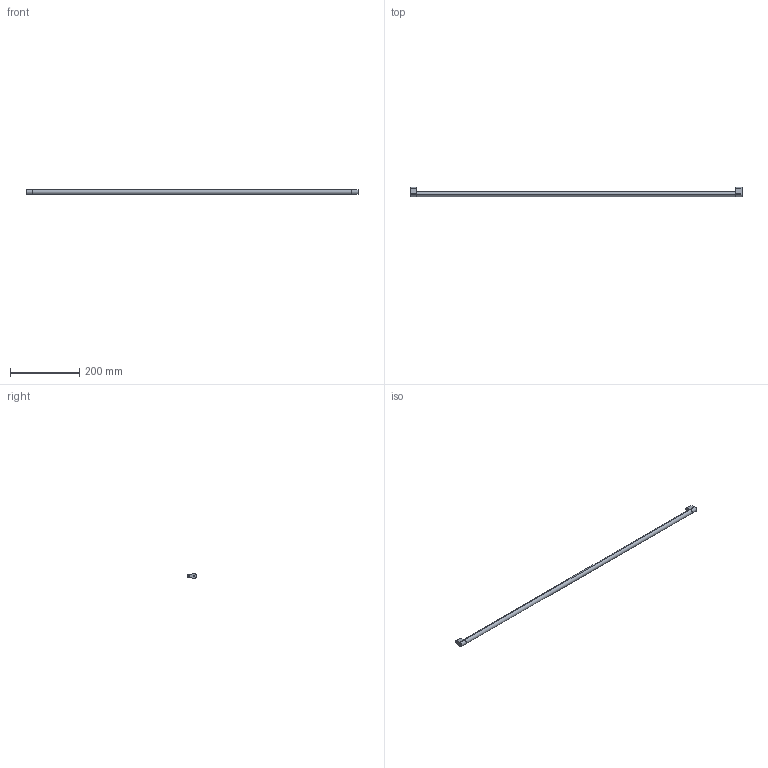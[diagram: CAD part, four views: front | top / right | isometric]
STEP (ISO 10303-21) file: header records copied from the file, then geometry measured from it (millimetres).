
FILE_DESCRIPTION (( 'STEP AP214' ), '1' );
FILE_NAME ('_Synchronisationseinheit Nova Pro KAB1050_S19.step', '2010-07-08T13:58:50', ( 'grass' ), ( '' ), 'SwSTEP 2.0', 'SolidWorks 2010', '' );
FILE_SCHEMA (( 'AUTOMOTIVE_DESIGN' ));
Length unit declared in the file: millimetre
Products named in the file (1): _Synchronisationseinheit Nova Pro KAB1050_S19
Bounding box: 959 x 26.5 x 14 mm (x, y, z)
Volume: 151313.4 mm3; surface area: 45026 mm2
Topology: 3 solids, 3 shells, 36 faces, 78 edges, 52 vertices
Faces by surface type: cylinder 18, plane 18
Entity records: 1050 total; most frequent: DIRECTION 188, CARTESIAN_POINT 167, ORIENTED_EDGE 156, EDGE_CURVE 78, AXIS2_PLACEMENT_3D 73, VERTEX_POINT 52, VECTOR 42, LINE 42
